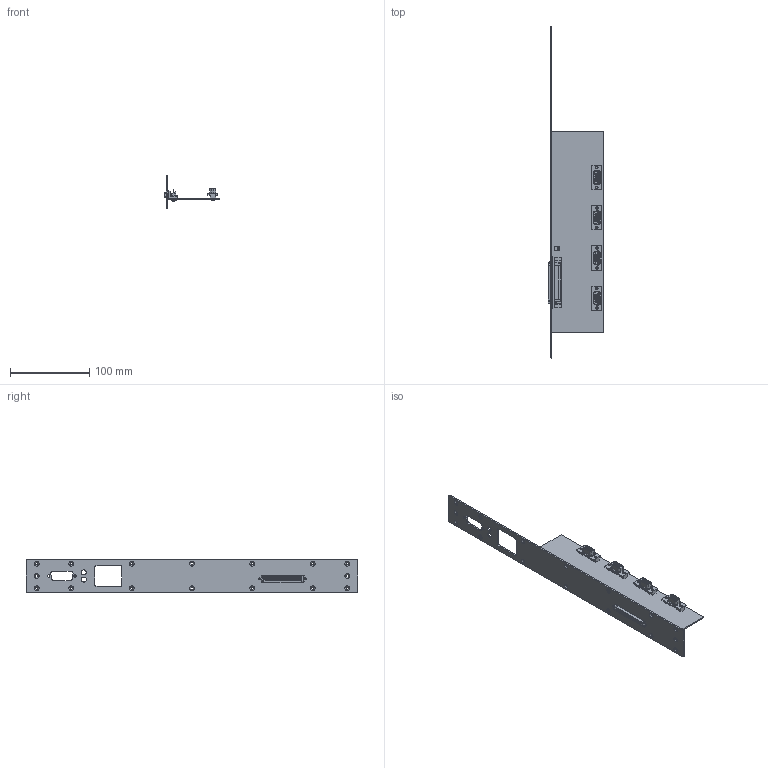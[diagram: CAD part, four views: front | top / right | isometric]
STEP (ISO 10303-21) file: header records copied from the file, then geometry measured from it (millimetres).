
FILE_DESCRIPTION(('Open CASCADE Model'),'2;1');
FILE_NAME('Open CASCADE Shape Model','2019-08-14T16:30:29',('Author'),( 'Open CASCADE'),'Open CASCADE STEP processor 6.8','Open CASCADE 6.8' ,'Unknown');
FILE_SCHEMA(('AUTOMOTIVE_DESIGN { 1 0 10303 214 1 1 1 1 }'));
Length unit declared in the file: millimetre
Products named in the file (15): PCB; Board; J5; D9F; J3; J1; J2; J4; c-787082-7-y-3d; P1; MOLEX_2pin_3.96mm_(022232021); Open CASCADE STEP translator 6.8 4.7.1.1; Open CASCADE STEP translator 6.8 4.7.1.2; Free-Models; A+_AI_Interface_Chassis_Rear_Panel_D1900136v1
Assembly tree (17 placements, depth 4):
  PCB
    Board
    J5
      D9F
    J3
      D9F
    J1
      D9F
    J2
      D9F
    J4
      c-787082-7-y-3d
    P1
      MOLEX_2pin_3.96mm_(022232021)
        Open CASCADE STEP translator 6.8 4.7.1.1
        Open CASCADE STEP translator 6.8 4.7.1.2
    Free-Models
      A+_AI_Interface_Chassis_Rear_Panel_D1900136v1
Bounding box: 70.6 x 419.1 x 40.64 mm (x, y, z)
Volume: 70440.7 mm3; surface area: 79072.4 mm2
Topology: 8 solids, 8 shells, 4869 faces, 13210 edges, 8730 vertices
Faces by surface type: plane 4272, cylinder 427, cone 152, torus 16, extrusion 2
Entity records: 64465 total; most frequent: CARTESIAN_POINT 11458, ORIENTED_EDGE 11076, DIRECTION 10254, EDGE_CURVE 5538, VECTOR 5050, LINE 5048, VERTEX_POINT 3658, AXIS2_PLACEMENT_3D 2602
